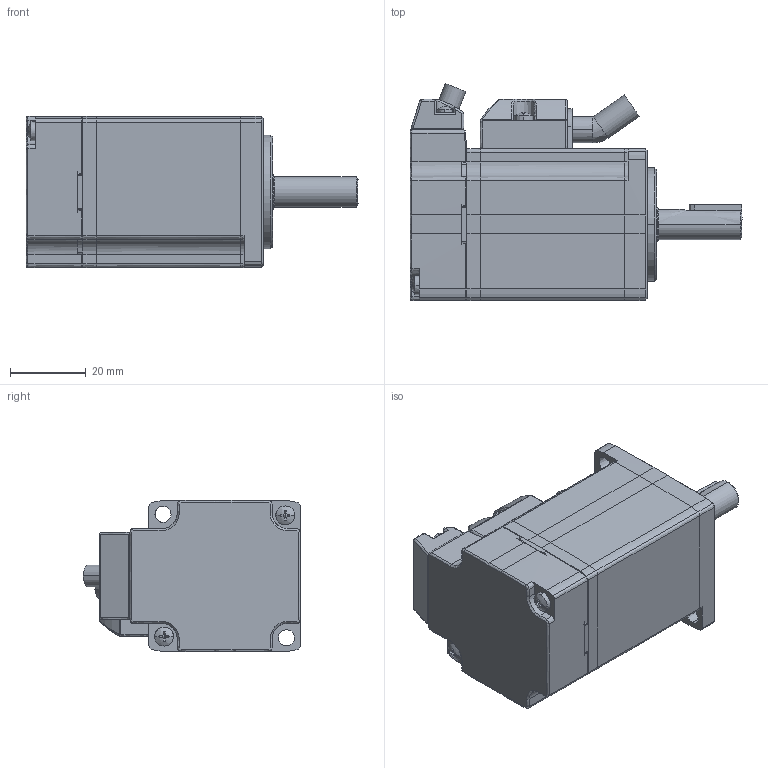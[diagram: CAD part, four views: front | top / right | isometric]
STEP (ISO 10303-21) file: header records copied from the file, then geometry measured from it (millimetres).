
FILE_DESCRIPTION(/* description */ (''),/* implementation_level */ '2;1');
FILE_NAME(/* name */ 'MXL-A5~1',/* time_stamp */ '2020-07-21T15:45:04+01:00',/* author */ (''),/* organization */ (''),/* preprocessor_version */ 'ST-DEVELOPER v15',/* originating_system */ '',/* authorisation */ '');
FILE_SCHEMA (('AUTOMOTIVE_DESIGN'));
Length unit declared in the file: millimetre
Products named in the file (1): Document
Bounding box: 87.5 x 57.22 x 40 mm (x, y, z)
Surface area: 19618.6 mm2 (no closed solid volume)
Topology: 0 solids, 25 shells, 517 faces, 1522 edges, 990 vertices
Faces by surface type: bspline 332, plane 185
Entity records: 23754 total; most frequent: CARTESIAN_POINT 15512, ORIENTED_EDGE 2515, EDGE_CURVE 1504, VERTEX_POINT 990, B_SPLINE_CURVE_WITH_KNOTS 934, EDGE_LOOP 564, ADVANCED_FACE 517, FACE_OUTER_BOUND 517
